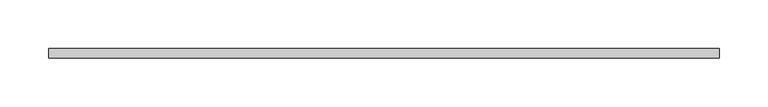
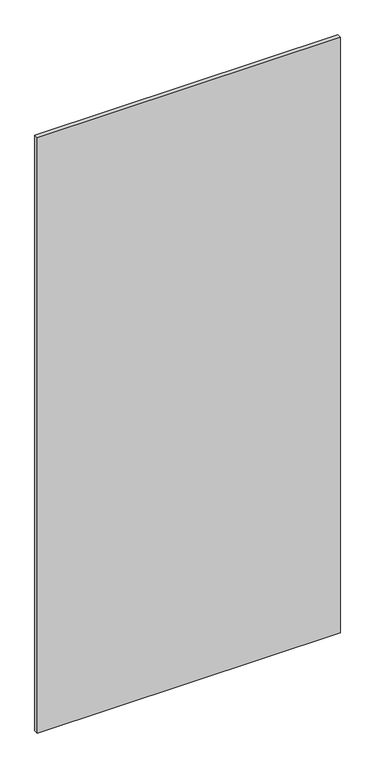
"""IFC4 building model written with IfcOpenShell, lengths in millimetres: plate geometry, システム パネル : 標準."""

from ifc_helpers import new_model, si_unit, origin, origin_with_axes, place, context, project, spatial, polyline, outline, extrude, source, transform, mapped, element, save


def plate_ab2b1a6a(model_context):
    return source(origin(), model_context, "Body", "SweptSolid", [
        extrude(outline(polyline([(344.358268, -5.0), (-344.358268, -5.0), (-344.358268, 5.0), (344.358268, 5.0), (344.358268, -5.0)])), origin_with_axes(), (0.0, 0.0, 1.0), 1430.0),
    ])


if __name__ == "__main__":
    model = new_model("IFC4")
    model_context = context("Model", 3, world=origin())
    ifc_project = project(units=[si_unit("LENGTHUNIT", "METRE", prefix="MILLI")], contexts=[model_context])
    site = spatial("IfcSite", under=ifc_project)
    building = spatial("IfcBuilding", under=site)
    placement = place(None, origin())
    plate_shape = plate_ab2b1a6a(model_context)
    element("IfcPlate", 1, ObjectType="システム パネル : 標準", at=placement, inside=building, context=model_context, shape_type="MappedRepresentation", body=[
        mapped(plate_shape, transform((0.0, 0.0, 0.0), x_axis=(1.0, 0.0, 0.0), y_axis=(0.0, 1.0, 0.0), z_axis=(0.0, 0.0, 1.0))),
    ])
    save(model, "model.ifc")
